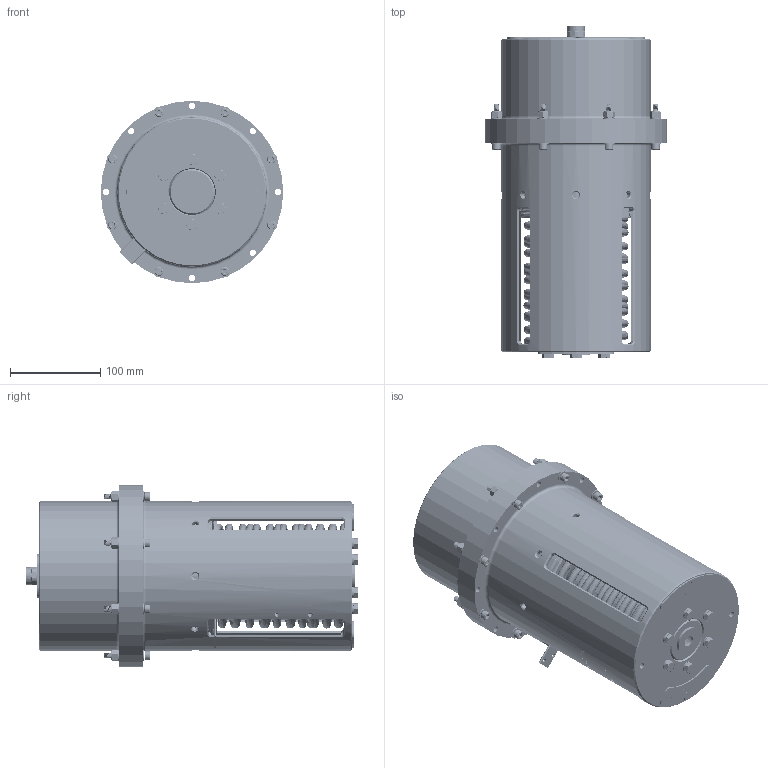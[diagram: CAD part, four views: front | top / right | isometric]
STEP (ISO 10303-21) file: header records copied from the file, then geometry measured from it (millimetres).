
FILE_DESCRIPTION (( 'STEP AP203' ), '1' );
FILE_NAME ('MD-OCP22-ME-24000-1.STEP', '2025-12-23T01:56:27', ( '' ), ( '' ), 'SwSTEP 2.0', 'SolidWorks 2024', '' );
FILE_SCHEMA (( 'CONFIG_CONTROL_DESIGN' ));
Length unit declared in the file: inch
Products named in the file (1): MD-OCP22-ME-24000-1
Bounding box: 201.93 x 367.6 x 201.93 mm (x, y, z)
Surface area: 732628.1 mm2 (no closed solid volume)
Topology: 0 solids, 270 shells, 2119 faces, 13156 edges, 11021 vertices
Faces by surface type: plane 901, cylinder 756, bspline 237, cone 193, torus 32
Entity records: 250481 total; most frequent: CARTESIAN_POINT 164193, ORIENTED_EDGE 16860, EDGE_CURVE 13139, DIRECTION 12978, VERTEX_POINT 11020, LINE 6838, VECTOR 6838, B_SPLINE_CURVE_WITH_KNOTS 4082
